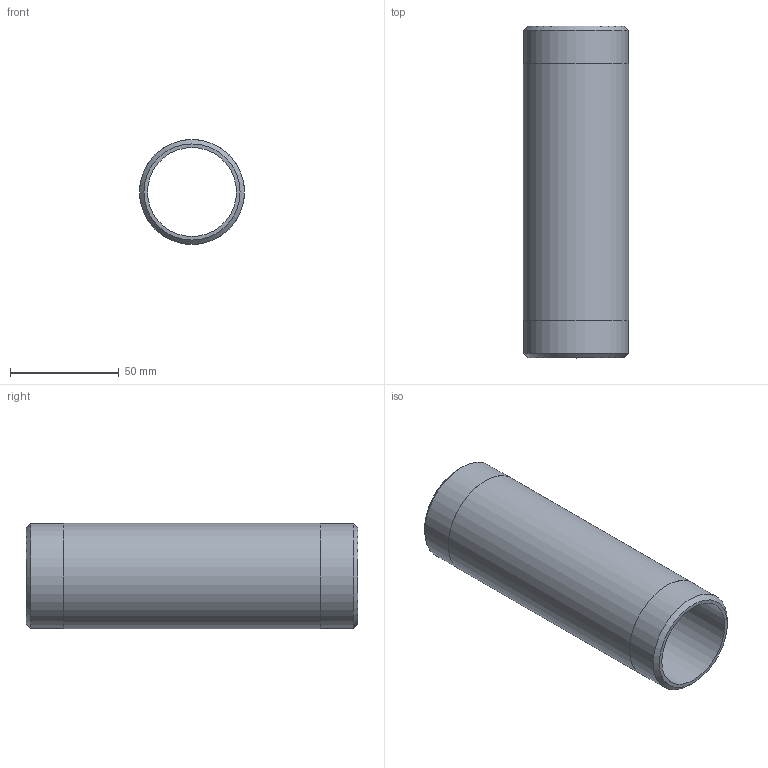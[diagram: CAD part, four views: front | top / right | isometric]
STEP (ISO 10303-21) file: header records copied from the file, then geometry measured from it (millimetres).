
FILE_DESCRIPTION(/* description */ (''),/* implementation_level */ '2;1');
FILE_NAME(/* name */ 'C:/Users/drich/Desktop/SSPN1-1_2-6 v1.step',/* time_stamp */ '2020-01-03T16:20:16-06:00',/* author */ (''),/* organization */ (''),/* preprocessor_version */ 'ST-DEVELOPER v18',/* originating_system */ 'Autodesk Translation Framework v8.12.0.6',/* authorisation */ '');
FILE_SCHEMA (('AUTOMOTIVE_DESIGN { 1 0 10303 214 3 1 1 }'));
Length unit declared in the file: inch
Products named in the file (1): SSPN1-1_2-6
Bounding box: 48.26 x 152.4 x 48.26 mm (x, y, z)
Volume: 77863.6 mm3; surface area: 43339.8 mm2
Topology: 1 solids, 1 shells, 10 faces, 24 edges, 18 vertices
Faces by surface type: cylinder 4, plane 4, cone 2
Full cylindrical faces by diameter (mm): 40.894 x1, 48.209 x2, 48.26 x1
Entity records: 353 total; most frequent: DIRECTION 64, CARTESIAN_POINT 53, ORIENTED_EDGE 48, AXIS2_PLACEMENT_3D 29, EDGE_CURVE 24, CIRCLE 18, VERTEX_POINT 18, EDGE_LOOP 14
